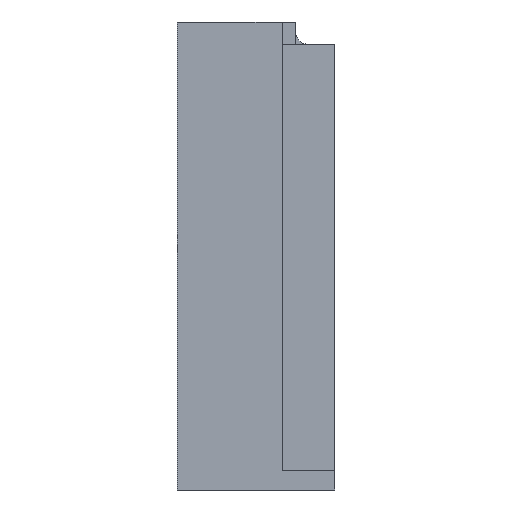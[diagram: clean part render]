
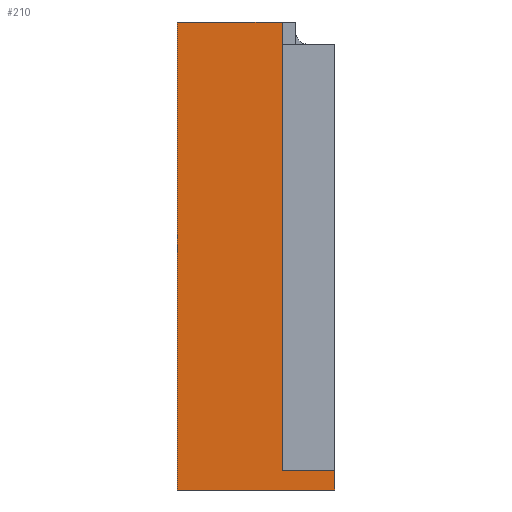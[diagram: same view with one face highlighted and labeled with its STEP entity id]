
A CAD part, left-side view. The second image highlights one B-rep face of the part: STEP entity #210.
In plain terms, the highlighted planar face has unit normal (-1, 0, 0).
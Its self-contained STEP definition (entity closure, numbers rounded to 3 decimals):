
#210=ADVANCED_FACE('',(#1577),#10539,.T.);
#1577=FACE_OUTER_BOUND('',#3044,.F.);
#3044=EDGE_LOOP('',(#4879,#4880,#4881,#4882,#4883,#4884,#4885));
#4879=ORIENTED_EDGE('',*,*,#12312,.F.);
#4880=ORIENTED_EDGE('',*,*,#11902,.T.);
#4881=ORIENTED_EDGE('',*,*,#11908,.T.);
#4882=ORIENTED_EDGE('',*,*,#11907,.F.);
#4883=ORIENTED_EDGE('',*,*,#12320,.F.);
#4884=ORIENTED_EDGE('',*,*,#12316,.T.);
#4885=ORIENTED_EDGE('',*,*,#12319,.T.);
#10539=PLANE('',#22848);
#11902=EDGE_CURVE('',#22838,#22837,#14941,.T.);
#11907=EDGE_CURVE('',#22833,#22831,#14946,.T.);
#11908=EDGE_CURVE('',#22837,#22831,#14947,.T.);
#12312=EDGE_CURVE('',#22838,#22429,#15351,.T.);
#12316=EDGE_CURVE('',#22427,#22425,#15355,.T.);
#12319=EDGE_CURVE('',#22425,#22429,#15358,.T.);
#12320=EDGE_CURVE('',#22427,#22833,#15359,.T.);
#14941=LINE('',#31815,#17978);
#14946=LINE('',#31820,#17983);
#14947=LINE('',#31821,#17984);
#15351=LINE('',#32225,#18388);
#15355=LINE('',#32229,#18392);
#15358=LINE('',#32232,#18395);
#15359=LINE('',#32233,#18396);
#17978=VECTOR('',#24213,1.7);
#17983=VECTOR('',#24218,4.);
#17984=VECTOR('',#24219,32.54);
#18388=VECTOR('',#24623,8.);
#18392=VECTOR('',#24627,12.);
#18395=VECTOR('',#24630,35.7);
#18396=VECTOR('',#24631,1.46);
#22425=VERTEX_POINT('',#31401);
#22427=VERTEX_POINT('',#31403);
#22429=VERTEX_POINT('',#31405);
#22831=VERTEX_POINT('',#31807);
#22833=VERTEX_POINT('',#31809);
#22837=VERTEX_POINT('',#31813);
#22838=VERTEX_POINT('',#31814);
#22848=AXIS2_PLACEMENT_3D('',#34859,#27264,#27265);
#24213=DIRECTION('',(0.,0.,-1.));
#24218=DIRECTION('',(0.,1.,0.));
#24219=DIRECTION('',(0.,0.,-1.));
#24623=DIRECTION('',(0.,1.,0.));
#24627=DIRECTION('',(0.,1.,0.));
#24630=DIRECTION('',(0.,0.,1.));
#24631=DIRECTION('',(0.,0.,1.));
#27264=DIRECTION('',(-1.,0.,0.));
#27265=DIRECTION('',(0.,1.,0.));
#31401=CARTESIAN_POINT('',(-13.747,14.418,-15.899));
#31403=CARTESIAN_POINT('',(-13.747,2.418,-15.899));
#31405=CARTESIAN_POINT('',(-13.747,14.418,19.801));
#31807=CARTESIAN_POINT('',(-13.747,6.418,-14.439));
#31809=CARTESIAN_POINT('',(-13.747,2.418,-14.439));
#31813=CARTESIAN_POINT('',(-13.747,6.418,18.101));
#31814=CARTESIAN_POINT('',(-13.747,6.418,19.801));
#31815=CARTESIAN_POINT('',(-13.747,6.418,19.801));
#31820=CARTESIAN_POINT('',(-13.747,2.418,-14.439));
#31821=CARTESIAN_POINT('',(-13.747,6.418,18.101));
#32225=CARTESIAN_POINT('',(-13.747,6.418,19.801));
#32229=CARTESIAN_POINT('',(-13.747,2.418,-15.899));
#32232=CARTESIAN_POINT('',(-13.747,14.418,-15.899));
#32233=CARTESIAN_POINT('',(-13.747,2.418,-15.899));
#34859=CARTESIAN_POINT('',(-13.747,2.061,20.158));
